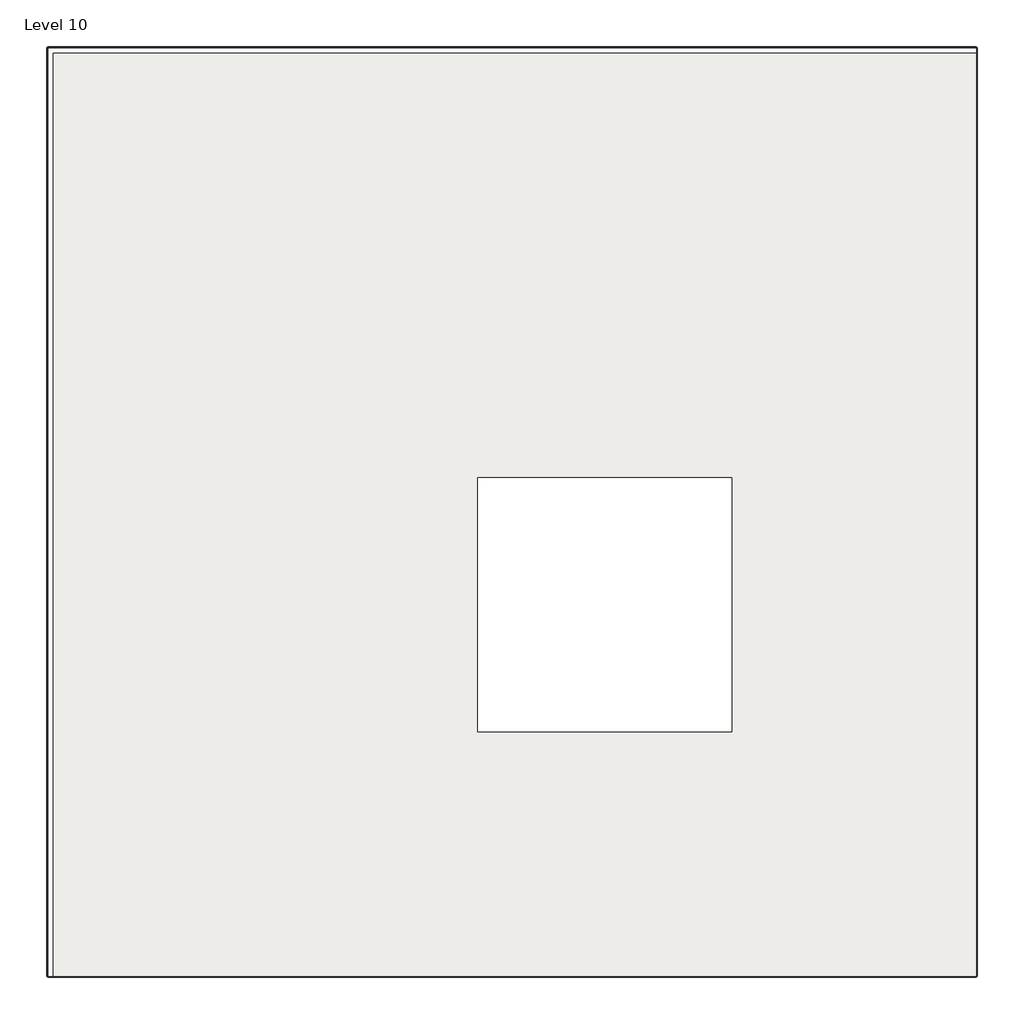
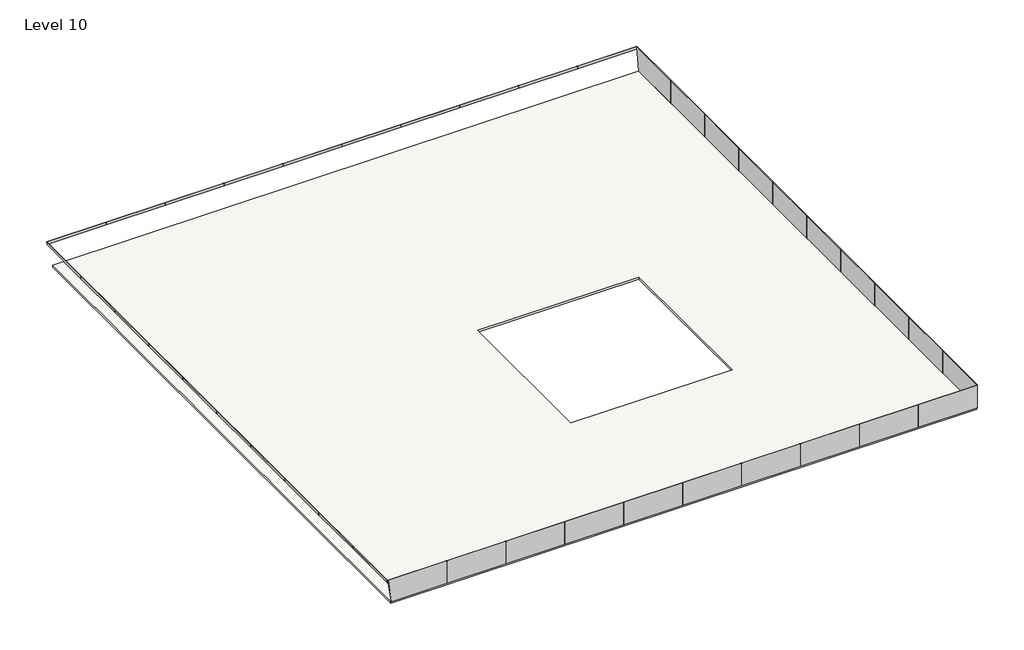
# One storey: 40 plates, 1 slab.
"""IFC4 building model written with IfcOpenShell, lengths in millimetres."""

import ifcopenshell
import ifcopenshell.guid

model = None  # the IFC model being written
_history = None  # IfcOwnerHistory: only IFC2X3 demands one
_inside = {}  # id of a spatial element -> (the spatial element, [elements in it])
_under = {}  # id of a project, library or spatial element -> (it, [spatial elements below it])
_declared = {}  # id of a project -> (the project, [libraries it declares])
_typed = {}  # id of a type object -> (the type object, [elements of that type])
_made_of = {}  # id of a material, layer set ... -> (it, [elements and type objects made of it])


def new_model(schema):
    """Start an empty IFC model of exactly this schema.

    Asked for "IFC4X3", IfcOpenShell would pick the latest addendum, in which some entities
    have other attributes; the version numbers below select the first issue.
    IFC2X3 requires an IfcOwnerHistory on every rooted entity: one is made here for all.
    """
    global model, _history
    if schema == "IFC4X3":
        model = ifcopenshell.file(schema_version=(4, 3, 0, 0))
    else:
        model = ifcopenshell.file(schema=schema)
    _inside.clear()
    _under.clear()
    _declared.clear()
    _typed.clear()
    _made_of.clear()
    _history = None
    if model.schema == "IFC2X3":
        org = make("IfcOrganization", Name="unknown")
        user = make(
            "IfcPersonAndOrganization",
            ThePerson=make("IfcPerson", FamilyName="unknown"),
            TheOrganization=org,
        )
        app = make(
            "IfcApplication",
            ApplicationDeveloper=org,
            Version="unknown",
            ApplicationFullName="unknown",
            ApplicationIdentifier="unknown",
        )
        _history = make(
            "IfcOwnerHistory",
            OwningUser=user,
            OwningApplication=app,
            ChangeAction="ADDED",
            CreationDate=0,
        )
    return model


def make(cls, **values):
    """One entity of the class cls with the attributes given. An attribute that is None is left unset."""
    return model.create_entity(
        cls, **{name: value for name, value in values.items() if value is not None}
    )


def rooted(cls, **values):
    """An entity with a GlobalId (a new one), such as an element, a storey or a relation."""
    return make(cls, GlobalId=ifcopenshell.guid.new(), OwnerHistory=_history, **values)


def si_unit(unit_type, name, prefix=None):
    """IfcSIUnit, for example si_unit("LENGTHUNIT", "METRE", prefix="MILLI")."""
    return make("IfcSIUnit", UnitType=unit_type, Prefix=prefix, Name=name)


def assignment(units):
    """IfcUnitAssignment: the units of a project."""
    return None if units is None else make("IfcUnitAssignment", Units=units)


def point(xyz):
    """IfcCartesianPoint."""
    return None if xyz is None else make("IfcCartesianPoint", Coordinates=xyz)


def direction(xyz):
    """IfcDirection."""
    return None if xyz is None else make("IfcDirection", DirectionRatios=xyz)


def frame(location, z_axis=None, x_axis=None):
    """IfcAxis2Placement3D, a coordinate frame: its origin and axes. An axis left out is left unset."""
    return make(
        "IfcAxis2Placement3D",
        Location=point(location),
        Axis=direction(z_axis),
        RefDirection=direction(x_axis),
    )


def origin():
    """The frame at (0, 0, 0) with its axes left unset."""
    return frame((0.0, 0.0, 0.0))


def origin_with_axes():
    """The frame at (0, 0, 0) with the z axis (0, 0, 1) and the x axis (1, 0, 0) written out."""
    return frame((0.0, 0.0, 0.0), z_axis=(0.0, 0.0, 1.0), x_axis=(1.0, 0.0, 0.0))


def place(relative_to, where):
    """IfcLocalPlacement: puts the frame where relative to a parent placement (None: the world)."""
    return make(
        "IfcLocalPlacement", PlacementRelTo=relative_to, RelativePlacement=where
    )


def context(
    kind, dimensions, precision=None, world=None, true_north=None, identifier=None
):
    """IfcGeometricRepresentationContext, for example the 3D "Model" context."""
    return make(
        "IfcGeometricRepresentationContext",
        ContextIdentifier=identifier,
        ContextType=kind,
        CoordinateSpaceDimension=dimensions,
        Precision=precision,
        WorldCoordinateSystem=world,
        TrueNorth=true_north,
    )


def project(units=None, contexts=None):
    """IfcProject with its units and contexts."""
    return rooted(
        "IfcProject",
        Name="project",
        RepresentationContexts=contexts,
        UnitsInContext=assignment(units),
    )


def spatial(cls, under=None, at=None, **own):
    """A site, building, storey or space (cls), placed at a placement, below another one or the project."""
    s = rooted(cls, ObjectPlacement=at, **own)
    if under is not None:
        _under.setdefault(under.id(), (under, []))[1].append(s)
    return s


def polyline(points):
    """IfcPolyline through the points."""
    return make("IfcPolyline", Points=[point(p) for p in points])


def outline(outer, holes=None, kind="AREA"):
    """IfcArbitraryClosedProfileDef: a profile drawn as a closed curve; with holes, ...WithVoids."""
    if holes is None:
        return make("IfcArbitraryClosedProfileDef", ProfileType=kind, OuterCurve=outer)
    return make(
        "IfcArbitraryProfileDefWithVoids",
        ProfileType=kind,
        OuterCurve=outer,
        InnerCurves=holes,
    )


def extrude(swept, where, along, depth):
    """IfcExtrudedAreaSolid: the profile swept, set in the frame where, extruded along a direction by depth."""
    return make(
        "IfcExtrudedAreaSolid",
        SweptArea=swept,
        Position=where,
        ExtrudedDirection=direction(along),
        Depth=depth,
    )


def shape(context_of_items, identifier, shape_type, items):
    """IfcShapeRepresentation: the items that make up one representation, for example the "Body"."""
    return make(
        "IfcShapeRepresentation",
        ContextOfItems=context_of_items,
        RepresentationIdentifier=identifier,
        RepresentationType=shape_type,
        Items=items,
    )


def source(mapping_origin, context_of_items, identifier, shape_type, items):
    """IfcRepresentationMap: a shape defined once, which mapped items show again and again."""
    return make(
        "IfcRepresentationMap",
        MappingOrigin=mapping_origin,
        MappedRepresentation=shape(context_of_items, identifier, shape_type, items),
    )


def transform(
    local_origin,
    x_axis=None,
    y_axis=None,
    z_axis=None,
    scale=None,
    scale2=None,
    scale3=None,
    uniform=True,
):
    """IfcCartesianTransformationOperator3D, or its non-uniform kind. x_axis, y_axis, z_axis: its Axis1, 2, 3."""
    if uniform:
        return make(
            "IfcCartesianTransformationOperator3D",
            Axis1=direction(x_axis),
            Axis2=direction(y_axis),
            LocalOrigin=point(local_origin),
            Scale=scale,
            Axis3=direction(z_axis),
        )
    return make(
        "IfcCartesianTransformationOperator3DnonUniform",
        Axis1=direction(x_axis),
        Axis2=direction(y_axis),
        LocalOrigin=point(local_origin),
        Scale=scale,
        Axis3=direction(z_axis),
        Scale2=scale2,
        Scale3=scale3,
    )


def mapped(mapping_source, mapping_target):
    """IfcMappedItem: shows the shape of a source again, moved by a transform."""
    return make(
        "IfcMappedItem", MappingSource=mapping_source, MappingTarget=mapping_target
    )


def made_of(thing, what):
    """Note that an element or type object is made of a material, layer set ...; save() writes the relation."""
    if what is not None:
        _made_of.setdefault(what.id(), (what, []))[1].append(thing)
    return thing


def element(
    cls,
    number,
    at=None,
    inside=None,
    cuts=None,
    type_object=None,
    material=None,
    context=None,
    identifier="Body",
    shape_type=None,
    held_by="IfcProductDefinitionShape",
    body=None,
    shapes=None,
    **own,
):
    """One element of the class cls, such as IfcWall. Its Tag is "e" and its number.

    at: its placement. inside: the storey or other place that contains it. cuts: it is an
    opening in that element (IfcRelVoidsElement). A single representation is given by context,
    identifier, shape_type and body (its items); several are given by shapes. held_by: the class
    of the entity that holds the representations. save() writes the other relations.
    """
    e = rooted(cls, Tag="e%d" % number, ObjectPlacement=at, **own)
    if body is not None:
        shapes = [shape(context, identifier, shape_type, body)]
    if shapes is not None:
        e.Representation = make(held_by, Representations=shapes)
    if inside is not None:
        _inside.setdefault(inside.id(), (inside, []))[1].append(e)
    if cuts is not None:
        rooted(
            "IfcRelVoidsElement", RelatingBuildingElement=cuts, RelatedOpeningElement=e
        )
    if type_object is not None:
        _typed.setdefault(type_object.id(), (type_object, []))[1].append(e)
    return made_of(e, material)


def aggregate(whole, parts):
    """IfcRelAggregates: a whole, such as a stair, and the parts it consists of."""
    return rooted("IfcRelAggregates", RelatingObject=whole, RelatedObjects=parts)


def save(model, path):
    """Write the relations noted so far, then the file.

    IfcRelAggregates (storeys below a building ...), IfcRelContainedInSpatialStructure (elements
    in a storey), IfcRelDefinesByType, IfcRelAssociatesMaterial and IfcRelDeclares: one each for
    every whole, place, type object, material and project.
    """
    for whole, parts in _under.values():
        aggregate(whole, parts)
    for where, things in _inside.values():
        rooted(
            "IfcRelContainedInSpatialStructure",
            RelatedElements=things,
            RelatingStructure=where,
        )
    for kind, things in _typed.values():
        rooted("IfcRelDefinesByType", RelatedObjects=things, RelatingType=kind)
    for what, things in _made_of.values():
        rooted("IfcRelAssociatesMaterial", RelatedObjects=things, RelatingMaterial=what)
    for by, libraries in _declared.values():
        rooted("IfcRelDeclares", RelatingContext=by, RelatedDefinitions=libraries)
    model.write(path)


def system_panel_glazed_9a39e563(model_context):
    return source(origin(), model_context, "Body", "SweptSolid", [
        extrude(outline(polyline([(0.0, -1505.2699431), (0.0, 1524.0000002), (131.51448, 1524.0000002), (131.51448, -1524.0000002), (0.0, -1505.2699431)])), frame((0.0, 19.05, 0.0), z_axis=(0.0, 1.0, 0.0), x_axis=(0.0, 0.0, 1.0)), (0.0, 0.0, 1.0), 25.4),
    ])


def system_panel_glazed_ab925a11(model_context):
    return source(origin(), model_context, "Body", "SweptSolid", [
        extrude(outline(polyline([(1524.0, 19.05), (-1524.0, 19.05), (-1524.0, 44.45), (1524.0, 44.45), (1524.0, 19.05)])), origin_with_axes(), (0.0, 0.0, 1.0), 131.51448),
    ])


def system_panel_glazed_556b931d(model_context):
    return source(origin(), model_context, "Body", "SweptSolid", [
        extrude(outline(polyline([(0.0, -1523.9999998), (0.0, 1505.2699428), (131.51448, 1523.9999998), (131.51448, -1523.9999998), (0.0, -1523.9999998)])), frame((0.0, 19.05, 0.0), z_axis=(0.0, 1.0, 0.0), x_axis=(0.0, 0.0, 1.0)), (0.0, 0.0, 1.0), 25.4),
    ])


def system_panel_glazed_e3593e87(model_context):
    return source(origin(), model_context, "Body", "SweptSolid", [
        extrude(outline(polyline([(0.0, -1348.5755397), (0.0, 1524.0000002), (1219.2, 1524.0000002), (1219.2, -1524.0000002), (0.0, -1348.5755397)])), frame((0.0, 19.05, 0.0), z_axis=(0.0, 1.0, 0.0), x_axis=(0.0, 0.0, 1.0)), (0.0, 0.0, 1.0), 25.4),
    ])


def system_panel_glazed_251ec537(model_context):
    return source(origin(), model_context, "Body", "SweptSolid", [
        extrude(outline(polyline([(1524.0, 19.05), (-1524.0, 19.05), (-1524.0, 44.45), (1524.0, 44.45), (1524.0, 19.05)])), origin_with_axes(), (0.0, 0.0, 1.0), 1219.2),
    ])


def system_panel_glazed_c9496a02(model_context):
    return source(origin(), model_context, "Body", "SweptSolid", [
        extrude(outline(polyline([(0.0, -1523.9999998), (0.0, 1348.5755394), (1219.2, 1523.9999998), (1219.2, -1523.9999998), (0.0, -1523.9999998)])), frame((0.0, 19.05, 0.0), z_axis=(0.0, 1.0, 0.0), x_axis=(0.0, 0.0, 1.0)), (0.0, 0.0, 1.0), 25.4),
    ])


model = new_model("IFC4")

# Units and contexts
model_context = context("Model", 3, world=origin())
ifc_project = project(units=[si_unit("LENGTHUNIT", "METRE", prefix="MILLI")], contexts=[model_context])

# Site, building, storey
site = spatial("IfcSite", under=ifc_project)
building = spatial("IfcBuilding", under=site)
storey = spatial("IfcBuildingStorey", under=building, Name="Level 10", Elevation=41148.0)

# Plates
placement = place(None, origin())
system_panel_glazed_shape = system_panel_glazed_9a39e563(model_context)
element("IfcPlate", 1, ObjectType="System Panel : Glazed", at=placement, inside=storey, context=model_context, shape_type="MappedRepresentation", body=[
    mapped(system_panel_glazed_shape, transform((-20438.2026955, 17899.8990441, 42237.0261032), x_axis=(1.0, 0.0, 0.0), y_axis=(0.0, 0.9898065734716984, -0.1424182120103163), z_axis=(0.0, 0.1424182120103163, 0.9898065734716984))),
])
system_panel_glazed_2_shape = system_panel_glazed_ab925a11(model_context)
element("IfcPlate", 2, ObjectType="System Panel : Glazed", at=placement, inside=storey, context=model_context, shape_type="MappedRepresentation", body=[
    mapped(system_panel_glazed_2_shape, transform((-17390.2026953, 17899.8990441, 42237.0261032), x_axis=(1.0, 0.0, 0.0), y_axis=(0.0, 0.9898065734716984, -0.1424182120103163), z_axis=(0.0, 0.1424182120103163, 0.9898065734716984))),
])
element("IfcPlate", 3, ObjectType="System Panel : Glazed", at=placement, inside=storey, context=model_context, shape_type="MappedRepresentation", body=[
    mapped(system_panel_glazed_2_shape, transform((-14342.2026953, 17899.8990441, 42237.0261032), x_axis=(1.0, 0.0, 0.0), y_axis=(0.0, 0.9898065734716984, -0.1424182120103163), z_axis=(0.0, 0.1424182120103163, 0.9898065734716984))),
])
element("IfcPlate", 4, ObjectType="System Panel : Glazed", at=placement, inside=storey, context=model_context, shape_type="MappedRepresentation", body=[
    mapped(system_panel_glazed_2_shape, transform((-11294.2026953, 17899.8990441, 42237.0261032), x_axis=(1.0, 0.0, 0.0), y_axis=(0.0, 0.9898065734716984, -0.1424182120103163), z_axis=(0.0, 0.1424182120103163, 0.9898065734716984))),
])
element("IfcPlate", 5, ObjectType="System Panel : Glazed", at=placement, inside=storey, context=model_context, shape_type="MappedRepresentation", body=[
    mapped(system_panel_glazed_2_shape, transform((-8246.2026953, 17899.8990441, 42237.0261032), x_axis=(1.0, 0.0, 0.0), y_axis=(0.0, 0.9898065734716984, -0.1424182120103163), z_axis=(0.0, 0.1424182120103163, 0.9898065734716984))),
])
element("IfcPlate", 6, ObjectType="System Panel : Glazed", at=placement, inside=storey, context=model_context, shape_type="MappedRepresentation", body=[
    mapped(system_panel_glazed_2_shape, transform((-5198.2026953, 17899.8990441, 42237.0261032), x_axis=(1.0, 0.0, 0.0), y_axis=(0.0, 0.9898065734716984, -0.1424182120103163), z_axis=(0.0, 0.1424182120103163, 0.9898065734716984))),
])
element("IfcPlate", 7, ObjectType="System Panel : Glazed", at=placement, inside=storey, context=model_context, shape_type="MappedRepresentation", body=[
    mapped(system_panel_glazed_2_shape, transform((-2150.2026953, 17899.8990441, 42237.0261032), x_axis=(1.0, 0.0, 0.0), y_axis=(0.0, 0.9898065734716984, -0.1424182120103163), z_axis=(0.0, 0.1424182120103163, 0.9898065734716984))),
])
element("IfcPlate", 8, ObjectType="System Panel : Glazed", at=placement, inside=storey, context=model_context, shape_type="MappedRepresentation", body=[
    mapped(system_panel_glazed_2_shape, transform((897.7973047, 17899.8990441, 42237.0261032), x_axis=(1.0, 0.0, 0.0), y_axis=(0.0, 0.9898065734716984, -0.1424182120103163), z_axis=(0.0, 0.1424182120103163, 0.9898065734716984))),
])
element("IfcPlate", 9, ObjectType="System Panel : Glazed", at=placement, inside=storey, context=model_context, shape_type="MappedRepresentation", body=[
    mapped(system_panel_glazed_2_shape, transform((3945.7973047, 17899.8990441, 42237.0261032), x_axis=(1.0, 0.0, 0.0), y_axis=(0.0, 0.9898065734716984, -0.1424182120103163), z_axis=(0.0, 0.1424182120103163, 0.9898065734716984))),
])
element("IfcPlate", 10, ObjectType="System Panel : Glazed", at=placement, inside=storey, context=model_context, shape_type="MappedRepresentation", body=[
    mapped(system_panel_glazed_2_shape, transform((6993.7973045, 17899.8990441, 42237.0261032), x_axis=(1.0, 0.0, 0.0), y_axis=(0.0, 0.9898065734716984, -0.1424182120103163), z_axis=(0.0, 0.1424182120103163, 0.9898065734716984))),
])
element("IfcPlate", 11, ObjectType="System Panel : Glazed", at=placement, inside=storey, context=model_context, shape_type="MappedRepresentation", body=[
    mapped(system_panel_glazed_2_shape, transform((-21943.4726386, -11037.3708987, 42237.0261032), x_axis=(0.0, 1.0, 0.0), y_axis=(-0.9898065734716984, 0.0, -0.1424182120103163), z_axis=(-0.1424182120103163, 0.0, 0.9898065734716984))),
])
element("IfcPlate", 12, ObjectType="System Panel : Glazed", at=placement, inside=storey, context=model_context, shape_type="MappedRepresentation", body=[
    mapped(system_panel_glazed_2_shape, transform((-21943.4726386, -7989.3708985, 42237.0261032), x_axis=(0.0, 1.0, 0.0), y_axis=(-0.9898065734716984, 0.0, -0.1424182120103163), z_axis=(-0.1424182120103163, 0.0, 0.9898065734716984))),
])
element("IfcPlate", 13, ObjectType="System Panel : Glazed", at=placement, inside=storey, context=model_context, shape_type="MappedRepresentation", body=[
    mapped(system_panel_glazed_2_shape, transform((-21943.4726386, -4941.3708985, 42237.0261032), x_axis=(0.0, 1.0, 0.0), y_axis=(-0.9898065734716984, 0.0, -0.1424182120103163), z_axis=(-0.1424182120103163, 0.0, 0.9898065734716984))),
])
element("IfcPlate", 14, ObjectType="System Panel : Glazed", at=placement, inside=storey, context=model_context, shape_type="MappedRepresentation", body=[
    mapped(system_panel_glazed_2_shape, transform((-21943.4726386, -1893.3708985, 42237.0261032), x_axis=(0.0, 1.0, 0.0), y_axis=(-0.9898065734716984, 0.0, -0.1424182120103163), z_axis=(-0.1424182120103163, 0.0, 0.9898065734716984))),
])
element("IfcPlate", 15, ObjectType="System Panel : Glazed", at=placement, inside=storey, context=model_context, shape_type="MappedRepresentation", body=[
    mapped(system_panel_glazed_2_shape, transform((-21943.4726386, 1154.6291015, 42237.0261032), x_axis=(0.0, 1.0, 0.0), y_axis=(-0.9898065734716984, 0.0, -0.1424182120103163), z_axis=(-0.1424182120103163, 0.0, 0.9898065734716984))),
])
element("IfcPlate", 16, ObjectType="System Panel : Glazed", at=placement, inside=storey, context=model_context, shape_type="MappedRepresentation", body=[
    mapped(system_panel_glazed_2_shape, transform((-21943.4726386, 4202.6291015, 42237.0261032), x_axis=(0.0, 1.0, 0.0), y_axis=(-0.9898065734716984, 0.0, -0.1424182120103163), z_axis=(-0.1424182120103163, 0.0, 0.9898065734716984))),
])
element("IfcPlate", 17, ObjectType="System Panel : Glazed", at=placement, inside=storey, context=model_context, shape_type="MappedRepresentation", body=[
    mapped(system_panel_glazed_2_shape, transform((-21943.4726386, 7250.6291015, 42237.0261032), x_axis=(0.0, 1.0, 0.0), y_axis=(-0.9898065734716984, 0.0, -0.1424182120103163), z_axis=(-0.1424182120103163, 0.0, 0.9898065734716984))),
])
element("IfcPlate", 18, ObjectType="System Panel : Glazed", at=placement, inside=storey, context=model_context, shape_type="MappedRepresentation", body=[
    mapped(system_panel_glazed_2_shape, transform((-21943.4726386, 10298.6291015, 42237.0261032), x_axis=(0.0, 1.0, 0.0), y_axis=(-0.9898065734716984, 0.0, -0.1424182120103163), z_axis=(-0.1424182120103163, 0.0, 0.9898065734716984))),
])
element("IfcPlate", 19, ObjectType="System Panel : Glazed", at=placement, inside=storey, context=model_context, shape_type="MappedRepresentation", body=[
    mapped(system_panel_glazed_2_shape, transform((-21943.4726386, 13346.6291015, 42237.0261032), x_axis=(0.0, 1.0, 0.0), y_axis=(-0.9898065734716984, 0.0, -0.1424182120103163), z_axis=(-0.1424182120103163, 0.0, 0.9898065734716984))),
])
system_panel_glazed_3_shape = system_panel_glazed_556b931d(model_context)
element("IfcPlate", 20, ObjectType="System Panel : Glazed", at=placement, inside=storey, context=model_context, shape_type="MappedRepresentation", body=[
    mapped(system_panel_glazed_3_shape, transform((-21943.4726386, 16394.6291013, 42237.0261032), x_axis=(0.0, 1.0, 0.0), y_axis=(-0.9898065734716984, 0.0, -0.1424182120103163), z_axis=(-0.1424182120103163, 0.0, 0.9898065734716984))),
])
system_panel_glazed_4_shape = system_panel_glazed_e3593e87(model_context)
element("IfcPlate", 21, ObjectType="System Panel : Glazed", at=placement, inside=storey, context=model_context, shape_type="MappedRepresentation", body=[
    mapped(system_panel_glazed_4_shape, transform((8517.7973043, 16394.629101, 41148.0), x_axis=(0.0, -1.0, 0.0), y_axis=(1.0, 0.0, 0.0), z_axis=(0.0, 0.0, 1.0))),
])
system_panel_glazed_5_shape = system_panel_glazed_251ec537(model_context)
element("IfcPlate", 22, ObjectType="System Panel : Glazed", at=placement, inside=storey, context=model_context, shape_type="MappedRepresentation", body=[
    mapped(system_panel_glazed_5_shape, transform((8517.7973043, 13346.6291009, 41148.0), x_axis=(0.0, -1.0, 0.0), y_axis=(1.0, 0.0, 0.0), z_axis=(0.0, 0.0, 1.0))),
])
element("IfcPlate", 23, ObjectType="System Panel : Glazed", at=placement, inside=storey, context=model_context, shape_type="MappedRepresentation", body=[
    mapped(system_panel_glazed_5_shape, transform((8517.7973043, 10298.6291009, 41148.0), x_axis=(0.0, -1.0, 0.0), y_axis=(1.0, 0.0, 0.0), z_axis=(0.0, 0.0, 1.0))),
])
element("IfcPlate", 24, ObjectType="System Panel : Glazed", at=placement, inside=storey, context=model_context, shape_type="MappedRepresentation", body=[
    mapped(system_panel_glazed_5_shape, transform((8517.7973043, 7250.6291009, 41148.0), x_axis=(0.0, -1.0, 0.0), y_axis=(1.0, 0.0, 0.0), z_axis=(0.0, 0.0, 1.0))),
])
element("IfcPlate", 25, ObjectType="System Panel : Glazed", at=placement, inside=storey, context=model_context, shape_type="MappedRepresentation", body=[
    mapped(system_panel_glazed_5_shape, transform((8517.7973043, 4202.6291009, 41148.0), x_axis=(0.0, -1.0, 0.0), y_axis=(1.0, 0.0, 0.0), z_axis=(0.0, 0.0, 1.0))),
])
element("IfcPlate", 26, ObjectType="System Panel : Glazed", at=placement, inside=storey, context=model_context, shape_type="MappedRepresentation", body=[
    mapped(system_panel_glazed_5_shape, transform((8517.7973043, 1154.6291009, 41148.0), x_axis=(0.0, -1.0, 0.0), y_axis=(1.0, 0.0, 0.0), z_axis=(0.0, 0.0, 1.0))),
])
element("IfcPlate", 27, ObjectType="System Panel : Glazed", at=placement, inside=storey, context=model_context, shape_type="MappedRepresentation", body=[
    mapped(system_panel_glazed_5_shape, transform((8517.7973043, -1893.3708991, 41148.0), x_axis=(0.0, -1.0, 0.0), y_axis=(1.0, 0.0, 0.0), z_axis=(0.0, 0.0, 1.0))),
])
element("IfcPlate", 28, ObjectType="System Panel : Glazed", at=placement, inside=storey, context=model_context, shape_type="MappedRepresentation", body=[
    mapped(system_panel_glazed_5_shape, transform((8517.7973043, -4941.3708991, 41148.0), x_axis=(0.0, -1.0, 0.0), y_axis=(1.0, 0.0, 0.0), z_axis=(0.0, 0.0, 1.0))),
])
element("IfcPlate", 29, ObjectType="System Panel : Glazed", at=placement, inside=storey, context=model_context, shape_type="MappedRepresentation", body=[
    mapped(system_panel_glazed_5_shape, transform((8517.7973043, -7989.3708991, 41148.0), x_axis=(0.0, -1.0, 0.0), y_axis=(1.0, 0.0, 0.0), z_axis=(0.0, 0.0, 1.0))),
])
element("IfcPlate", 30, ObjectType="System Panel : Glazed", at=placement, inside=storey, context=model_context, shape_type="MappedRepresentation", body=[
    mapped(system_panel_glazed_5_shape, transform((8517.7973043, -11037.370899, 41148.0), x_axis=(0.0, -1.0, 0.0), y_axis=(1.0, 0.0, 0.0), z_axis=(0.0, 0.0, 1.0))),
])
element("IfcPlate", 31, ObjectType="System Panel : Glazed", at=placement, inside=storey, context=model_context, shape_type="MappedRepresentation", body=[
    mapped(system_panel_glazed_5_shape, transform((6993.7973042, -12561.3708988, 41148.0), x_axis=(-1.0, 0.0, 0.0), y_axis=(0.0, -1.0, 0.0), z_axis=(0.0, 0.0, 1.0))),
])
element("IfcPlate", 32, ObjectType="System Panel : Glazed", at=placement, inside=storey, context=model_context, shape_type="MappedRepresentation", body=[
    mapped(system_panel_glazed_5_shape, transform((3945.797304, -12561.3708988, 41148.0), x_axis=(-1.0, 0.0, 0.0), y_axis=(0.0, -1.0, 0.0), z_axis=(0.0, 0.0, 1.0))),
])
element("IfcPlate", 33, ObjectType="System Panel : Glazed", at=placement, inside=storey, context=model_context, shape_type="MappedRepresentation", body=[
    mapped(system_panel_glazed_5_shape, transform((897.797304, -12561.3708988, 41148.0), x_axis=(-1.0, 0.0, 0.0), y_axis=(0.0, -1.0, 0.0), z_axis=(0.0, 0.0, 1.0))),
])
element("IfcPlate", 34, ObjectType="System Panel : Glazed", at=placement, inside=storey, context=model_context, shape_type="MappedRepresentation", body=[
    mapped(system_panel_glazed_5_shape, transform((-2150.202696, -12561.3708988, 41148.0), x_axis=(-1.0, 0.0, 0.0), y_axis=(0.0, -1.0, 0.0), z_axis=(0.0, 0.0, 1.0))),
])
element("IfcPlate", 35, ObjectType="System Panel : Glazed", at=placement, inside=storey, context=model_context, shape_type="MappedRepresentation", body=[
    mapped(system_panel_glazed_5_shape, transform((-5198.202696, -12561.3708988, 41148.0), x_axis=(-1.0, 0.0, 0.0), y_axis=(0.0, -1.0, 0.0), z_axis=(0.0, 0.0, 1.0))),
])
element("IfcPlate", 36, ObjectType="System Panel : Glazed", at=placement, inside=storey, context=model_context, shape_type="MappedRepresentation", body=[
    mapped(system_panel_glazed_5_shape, transform((-8246.202696, -12561.3708988, 41148.0), x_axis=(-1.0, 0.0, 0.0), y_axis=(0.0, -1.0, 0.0), z_axis=(0.0, 0.0, 1.0))),
])
element("IfcPlate", 37, ObjectType="System Panel : Glazed", at=placement, inside=storey, context=model_context, shape_type="MappedRepresentation", body=[
    mapped(system_panel_glazed_5_shape, transform((-11294.202696, -12561.3708988, 41148.0), x_axis=(-1.0, 0.0, 0.0), y_axis=(0.0, -1.0, 0.0), z_axis=(0.0, 0.0, 1.0))),
])
element("IfcPlate", 38, ObjectType="System Panel : Glazed", at=placement, inside=storey, context=model_context, shape_type="MappedRepresentation", body=[
    mapped(system_panel_glazed_5_shape, transform((-14342.202696, -12561.3708988, 41148.0), x_axis=(-1.0, 0.0, 0.0), y_axis=(0.0, -1.0, 0.0), z_axis=(0.0, 0.0, 1.0))),
])
element("IfcPlate", 39, ObjectType="System Panel : Glazed", at=placement, inside=storey, context=model_context, shape_type="MappedRepresentation", body=[
    mapped(system_panel_glazed_5_shape, transform((-17390.202696, -12561.3708988, 41148.0), x_axis=(-1.0, 0.0, 0.0), y_axis=(0.0, -1.0, 0.0), z_axis=(0.0, 0.0, 1.0))),
])
system_panel_glazed_6_shape = system_panel_glazed_c9496a02(model_context)
element("IfcPlate", 40, ObjectType="System Panel : Glazed", at=placement, inside=storey, context=model_context, shape_type="MappedRepresentation", body=[
    mapped(system_panel_glazed_6_shape, transform((-20438.2026958, -12561.3708988, 41148.0), x_axis=(-1.0, 0.0, 0.0), y_axis=(0.0, -1.0, 0.0), z_axis=(0.0, 0.0, 1.0))),
])

# Slab
element("IfcSlab", 41, ObjectType="LW Concrete on Metal Deck", at=placement, inside=storey, context=model_context, shape_type="SweptSolid", body=[
    extrude(outline(polyline([(-21786.7782352, -12561.3708988), (-21786.7782352, 17743.2046407), (8517.7973043, 17743.2046407), (8517.7973043, -12561.3708988), (-21786.7782352, -12561.3708988)]), holes=[polyline([(-7844.5651957, 3800.9916012), (-7844.5651957, -4539.7333988), (496.1598043, -4539.7333988), (496.1598043, 3800.9916012), (-7844.5651957, 3800.9916012)])]), frame((0.0, 0.0, 41043.225), z_axis=(0.0, 0.0, 1.0), x_axis=(1.0, 0.0, 0.0)), (0.0, 0.0, 1.0), 104.775),
])

save(model, "model.ifc")
